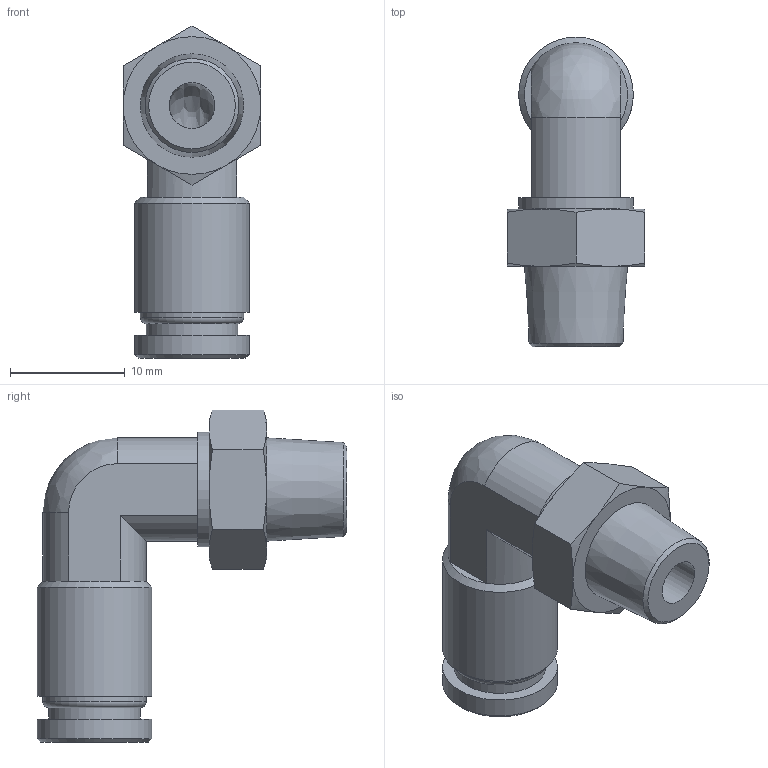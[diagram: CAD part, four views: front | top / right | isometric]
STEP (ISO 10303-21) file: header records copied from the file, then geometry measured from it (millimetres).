
FILE_DESCRIPTION(/* description */ (''),/* implementation_level */ '2;1');
FILE_NAME(/* name */ 'LXH21 0006 B1.stp',/* time_stamp */ '2026-05-01T12:41:52+02:00',/* author */ ('freju'),/* organization */ (''),/* preprocessor_version */ 'ST-DEVELOPER v20.1',/* originating_system */ 'Autodesk Inventor 2026',/* authorisation */ '');
FILE_SCHEMA (('AUTOMOTIVE_DESIGN { 1 0 10303 214 3 1 1 }'));
Length unit declared in the file: millimetre
Products named in the file (1): LXH21 0006 B1
Bounding box: 12 x 27 x 28.93 mm (x, y, z)
Volume: 2333.4 mm3; surface area: 2211.5 mm2
Topology: 1 solids, 1 shells, 49 faces, 107 edges, 64 vertices
Faces by surface type: plane 18, cone 16, cylinder 12, bspline 2, torus 1
Full cylindrical faces by diameter (mm): 4 x2, 6 x1, 8 x1, 9 x1, 10 x3
Entity records: 1381 total; most frequent: CARTESIAN_POINT 307, DIRECTION 228, ORIENTED_EDGE 210, EDGE_CURVE 105, AXIS2_PLACEMENT_3D 99, VERTEX_POINT 64, EDGE_LOOP 57, CIRCLE 50
